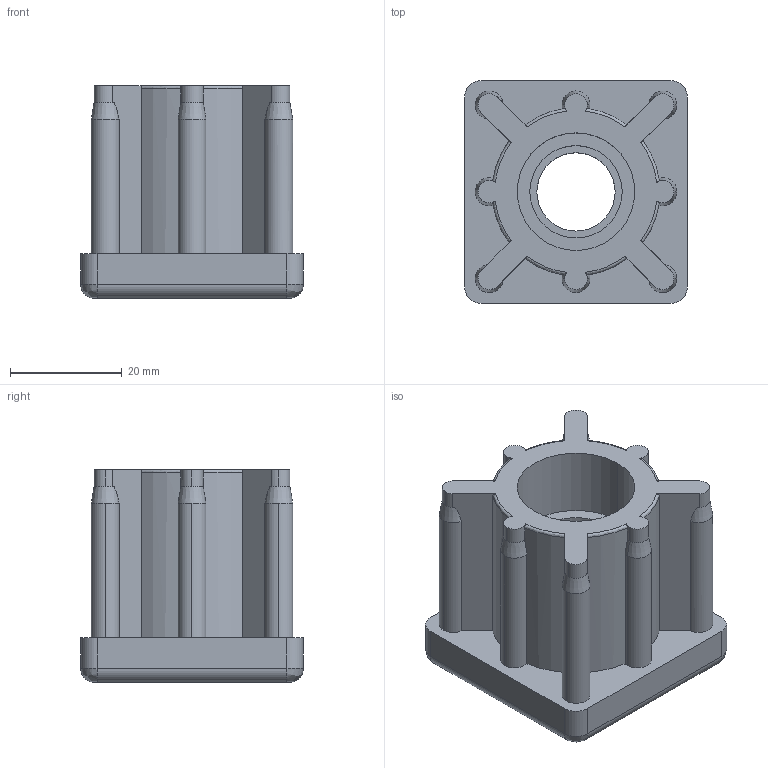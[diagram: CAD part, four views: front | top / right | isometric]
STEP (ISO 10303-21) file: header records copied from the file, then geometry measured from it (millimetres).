
FILE_DESCRIPTION (( 'STEP AP214' ), '1' );
FILE_NAME ('42006840314.STEP', '2020-02-26T10:36:35', ( '' ), ( '' ), 'SwSTEP 2.0', 'SolidWorks 2018', '' );
FILE_SCHEMA (( 'AUTOMOTIVE_DESIGN' ));
Length unit declared in the file: millimetre
Products named in the file (1): 42006840314
Bounding box: 39.8 x 39.8 x 38 mm (x, y, z)
Volume: 30681.7 mm3; surface area: 11375 mm2
Topology: 1 solids, 1 shells, 107 faces, 287 edges, 186 vertices
Faces by surface type: cylinder 52, plane 26, cone 17, torus 8, bspline 4
Entity records: 3991 total; most frequent: CARTESIAN_POINT 1235, DIRECTION 589, ORIENTED_EDGE 574, EDGE_CURVE 287, AXIS2_PLACEMENT_3D 230, VERTEX_POINT 186, VECTOR 129, LINE 129
